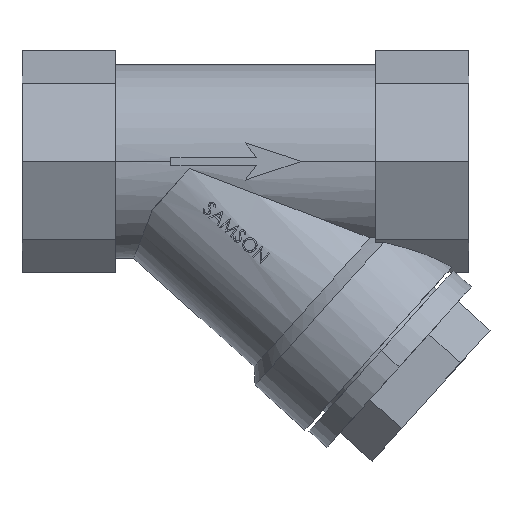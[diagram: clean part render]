
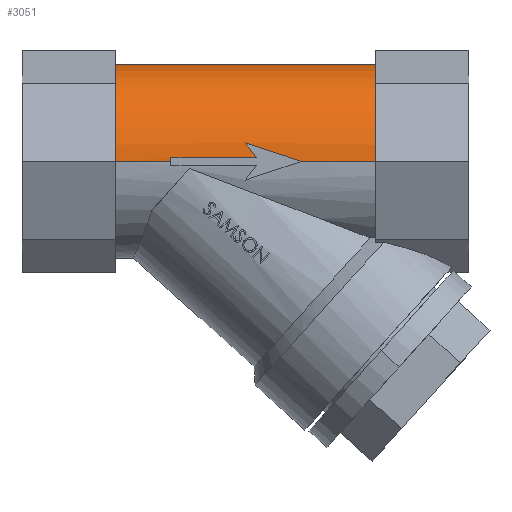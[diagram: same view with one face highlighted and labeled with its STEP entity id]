
A CAD part, top view. The second image highlights one B-rep face of the part: STEP entity #3051.
In plain terms, the highlighted cylindrical face has radius 26 mm (diameter 52 mm), a partial arc.
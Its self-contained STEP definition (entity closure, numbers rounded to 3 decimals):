
#514 = CARTESIAN_POINT ( 'NONE',  ( 55., 0., -26. ) ) ;
#515 = CARTESIAN_POINT ( 'NONE',  ( 55., 0., 26. ) ) ;
#516 = DIRECTION ( 'NONE',  ( 0., 0., 1. ) ) ;
#517 = DIRECTION ( 'NONE',  ( -1., 0., 0. ) ) ;
#518 = AXIS2_PLACEMENT_3D ( 'NONE', #524, #517, #516 ) ;
#519 = CIRCLE ( 'NONE', #518, 26. ) ;
#520 = DIRECTION ( 'NONE',  ( 0., 0., 1. ) ) ;
#521 = DIRECTION ( 'NONE',  ( -1., 0., 0. ) ) ;
#522 = CARTESIAN_POINT ( 'NONE',  ( -72.96, 0., 0. ) ) ;
#523 = AXIS2_PLACEMENT_3D ( 'NONE', #522, #521, #520 ) ;
#524 = CARTESIAN_POINT ( 'NONE',  ( 55., 0., 0. ) ) ;
#525 = CYLINDRICAL_SURFACE ( 'NONE', #523, 26. ) ;
#531 = FACE_OUTER_BOUND ( 'NONE', #3052, .T. ) ;
#637 = DIRECTION ( 'NONE',  ( 0., 0., -1. ) ) ;
#638 = DIRECTION ( 'NONE',  ( 1., 0., 0. ) ) ;
#639 = CARTESIAN_POINT ( 'NONE',  ( 0., 0., 0. ) ) ;
#640 = AXIS2_PLACEMENT_3D ( 'NONE', #639, #638, #637 ) ;
#641 = CIRCLE ( 'NONE', #640, 26. ) ;
#642 = DIRECTION ( 'NONE',  ( -1., 0., 0. ) ) ;
#643 = VECTOR ( 'NONE', #642, 1000. ) ;
#644 = CARTESIAN_POINT ( 'NONE',  ( -72.96, 0., 26. ) ) ;
#645 = LINE ( 'NONE', #644, #643 ) ;
#646 = CARTESIAN_POINT ( 'NONE',  ( 23., 0.999, 25.981 ) ) ;
#647 = CARTESIAN_POINT ( 'NONE',  ( 21.992, 2.343, 25.929 ) ) ;
#648 = CARTESIAN_POINT ( 'NONE',  ( 20.99, 3.679, 25.774 ) ) ;
#649 = CARTESIAN_POINT ( 'NONE',  ( 20., 4.999, 25.515 ) ) ;
#650 =( BOUNDED_CURVE ( )  B_SPLINE_CURVE ( 3, ( #649, #648, #647, #646 ),
 .UNSPECIFIED., .F., .T. ) 
 B_SPLINE_CURVE_WITH_KNOTS ( ( 4, 4 ),
 ( 1.377, 1.532 ),
 .UNSPECIFIED. ) 
 CURVE ( )  GEOMETRIC_REPRESENTATION_ITEM ( )  RATIONAL_B_SPLINE_CURVE ( ( 1., 0.998, 0.998, 1. ) ) 
 REPRESENTATION_ITEM ( '' )  );
#651 = CARTESIAN_POINT ( 'NONE',  ( 20., 4.999, 25.515 ) ) ;
#664 = CARTESIAN_POINT ( 'NONE',  ( -15., 0., -26. ) ) ;
#665 = CARTESIAN_POINT ( 'NONE',  ( 0., 0.999, 25.981 ) ) ;
#666 = CARTESIAN_POINT ( 'NONE',  ( 23., 0.999, 25.981 ) ) ;
#668 = CARTESIAN_POINT ( 'NONE',  ( -15., 0., 26. ) ) ;
#669 = DIRECTION ( 'NONE',  ( -1., 0., 0. ) ) ;
#670 = VECTOR ( 'NONE', #669, 1000. ) ;
#671 = CARTESIAN_POINT ( 'NONE',  ( -72.96, 0., -26. ) ) ;
#672 = LINE ( 'NONE', #671, #670 ) ;
#673 = DIRECTION ( 'NONE',  ( -1., 0., 0. ) ) ;
#674 = VECTOR ( 'NONE', #673, 1000. ) ;
#675 = CARTESIAN_POINT ( 'NONE',  ( -72.96, 0.999, 25.981 ) ) ;
#676 = DIRECTION ( 'NONE',  ( 0., 0., 1. ) ) ;
#677 = DIRECTION ( 'NONE',  ( -1., 0., 0. ) ) ;
#678 = CARTESIAN_POINT ( 'NONE',  ( -15., 0., 0. ) ) ;
#679 = AXIS2_PLACEMENT_3D ( 'NONE', #678, #677, #676 ) ;
#680 = CIRCLE ( 'NONE', #679, 26. ) ;
#681 = LINE ( 'NONE', #675, #674 ) ;
#682 = CARTESIAN_POINT ( 'NONE',  ( 0., 0., 26. ) ) ;
#683 = DIRECTION ( 'NONE',  ( -1., 0., 0. ) ) ;
#684 = VECTOR ( 'NONE', #683, 1000. ) ;
#685 = CARTESIAN_POINT ( 'NONE',  ( -72.96, 0., 26. ) ) ;
#686 = LINE ( 'NONE', #685, #684 ) ;
#751 = CARTESIAN_POINT ( 'NONE',  ( 20., 4.999, 25.515 ) ) ;
#752 = CARTESIAN_POINT ( 'NONE',  ( 24.944, 3.351, 25.838 ) ) ;
#753 = CARTESIAN_POINT ( 'NONE',  ( 29.959, 1.679, 26. ) ) ;
#754 = CARTESIAN_POINT ( 'NONE',  ( 34.997, 0., 26. ) ) ;
#755 =( BOUNDED_CURVE ( )  B_SPLINE_CURVE ( 3, ( #754, #753, #752, #751 ),
 .UNSPECIFIED., .F., .F. ) 
 B_SPLINE_CURVE_WITH_KNOTS ( ( 4, 4 ),
 ( 4.712, 4.906 ),
 .UNSPECIFIED. ) 
 CURVE ( )  GEOMETRIC_REPRESENTATION_ITEM ( )  RATIONAL_B_SPLINE_CURVE ( ( 1., 0.997, 0.997, 1. ) ) 
 REPRESENTATION_ITEM ( '' )  );
#756 = CARTESIAN_POINT ( 'NONE',  ( 34.997, 0., 26. ) ) ;
#3051 = ADVANCED_FACE ( 'NONE', ( #531 ), #525, .T. ) ;
#3052 = EDGE_LOOP ( 'NONE', ( #3053, #3117, #3116, #3120, #3113, #3108, #3168, #3165, #3104 ) ) ;
#3053 = ORIENTED_EDGE ( 'NONE', *, *, #3054, .T. ) ;
#3054 = EDGE_CURVE ( 'NONE', #3055, #3056, #519, .T. ) ;
#3055 = VERTEX_POINT ( 'NONE', #515 ) ;
#3056 = VERTEX_POINT ( 'NONE', #514 ) ;
#3103 = VERTEX_POINT ( 'NONE', #651 ) ;
#3104 = ORIENTED_EDGE ( 'NONE', *, *, #3106, .F. ) ;
#3105 = EDGE_CURVE ( 'NONE', #3103, #3119, #650, .T. ) ;
#3106 = EDGE_CURVE ( 'NONE', #3055, #3166, #645, .T. ) ;
#3107 = EDGE_CURVE ( 'NONE', #3121, #3110, #641, .T. ) ;
#3108 = ORIENTED_EDGE ( 'NONE', *, *, #3112, .F. ) ;
#3109 = EDGE_CURVE ( 'NONE', #3110, #3115, #686, .T. ) ;
#3110 = VERTEX_POINT ( 'NONE', #682 ) ;
#3111 = EDGE_CURVE ( 'NONE', #3115, #3122, #680, .T. ) ;
#3112 = EDGE_CURVE ( 'NONE', #3119, #3121, #681, .T. ) ;
#3113 = ORIENTED_EDGE ( 'NONE', *, *, #3107, .F. ) ;
#3114 = EDGE_CURVE ( 'NONE', #3056, #3122, #672, .T. ) ;
#3115 = VERTEX_POINT ( 'NONE', #668 ) ;
#3116 = ORIENTED_EDGE ( 'NONE', *, *, #3111, .F. ) ;
#3117 = ORIENTED_EDGE ( 'NONE', *, *, #3114, .T. ) ;
#3119 = VERTEX_POINT ( 'NONE', #666 ) ;
#3120 = ORIENTED_EDGE ( 'NONE', *, *, #3109, .F. ) ;
#3121 = VERTEX_POINT ( 'NONE', #665 ) ;
#3122 = VERTEX_POINT ( 'NONE', #664 ) ;
#3165 = ORIENTED_EDGE ( 'NONE', *, *, #3167, .F. ) ;
#3166 = VERTEX_POINT ( 'NONE', #756 ) ;
#3167 = EDGE_CURVE ( 'NONE', #3166, #3103, #755, .T. ) ;
#3168 = ORIENTED_EDGE ( 'NONE', *, *, #3105, .F. ) ;
